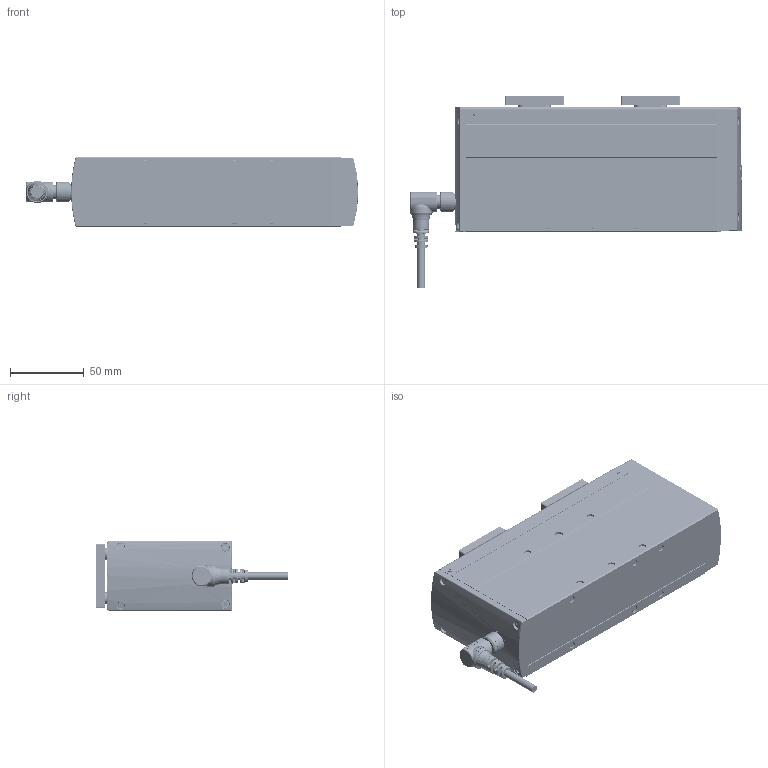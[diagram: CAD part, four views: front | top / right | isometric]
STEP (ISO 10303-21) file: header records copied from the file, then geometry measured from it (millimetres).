
FILE_DESCRIPTION(/* description */ ('STEP AP203'),/* implementation_level */ '2;1');
FILE_NAME(/* name */ 'D:\2025.02.25 帶電匯整給泊舟\3. CHS2系列\4.3D組立\CHS2B-S68-WW.stp',/* time_stamp */ '2025-02-25T18:04:19+08:00',/* author */ ('T10033'),/* organization */ (''),/* preprocessor_version */ 'ST-DEVELOPER v18.1',/* originating_system */ 'Autodesk Inventor 2020',/* authorisation */ '');
FILE_SCHEMA (('CONFIG_CONTROL_DESIGN'));
Products named in the file (9): CHS2B-S68; 12003-000234-02; 12004-000155-02; 22012-000358_M512內六角; 22012-001390_M2.5L16內六角; 22012-000311_M3L6內六角; 慶陞M12金屬頭; 52 5TW3E4_Shrinkwrap_1; M12-14PIN 線端90度接頭-05中繼線
Assembly tree (20 placements, depth 2):
  CHS2B-S68
    12003-000234-02
    12004-000155-02  x2
    22012-000358_M512內六角  x8
    22012-001390_M2.5L16內六角  x4
    22012-000311_M3L6內六角  x2
    慶陞M12金屬頭
    52 5TW3E4_Shrinkwrap_1
    M12-14PIN 線端90度接頭-05中繼線
Bounding box: 224.77 x 129.45 x 48 mm (x, y, z)
Volume: 782598.5 mm3; surface area: 97961.1 mm2
Topology: 34 solids, 39 shells, 3048 faces, 8965 edges, 6135 vertices
Faces by surface type: plane 1245, cone 800, cylinder 720, bspline 165, torus 114, sphere 4
Full cylindrical faces by diameter (mm): 0.6 x14, 0.65 x14, 1 x14, 1.5 x1, 1.6 x2, 2.05 x2, 2.5 x137, 3 x20, 3.5 x4, 3.8 x4, 4.2 x8, 4.5 x4, 5 x128, 5.2 x8, 5.5 x2, 8 x1, 8.5 x8, 8.9 x1, 9 x8, 9.5 x2, 9.6 x1, 10.5 x2, 10.9 x1, 11 x2, 11.2 x1, 11.25 x1, 12 x1, 12.5 x1, 13 x1, 13.8 x1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
Entity records: 100218 total; most frequent: CARTESIAN_POINT 40848, ORIENTED_EDGE 12152, DIRECTION 12081, EDGE_CURVE 6094, AXIS2_PLACEMENT_3D 4599, VERTEX_POINT 4107, LINE 2883, VECTOR 2883
